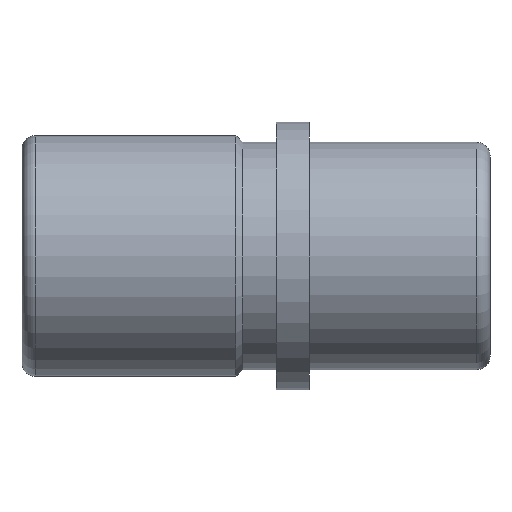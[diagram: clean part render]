
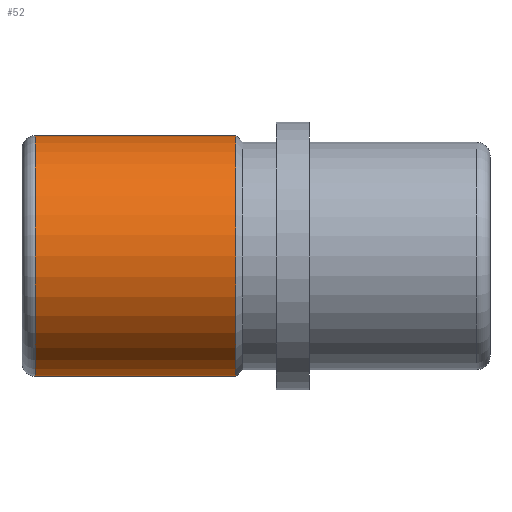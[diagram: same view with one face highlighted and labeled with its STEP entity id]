
A CAD part, front view. The second image highlights one B-rep face of the part: STEP entity #52.
In plain terms, the highlighted cylindrical face has radius 18 mm (diameter 36 mm), a full revolution.
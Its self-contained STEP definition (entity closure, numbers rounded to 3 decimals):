
#52 = ADVANCED_FACE( '', ( #111, #112 ), #113, .T. );
#111 = FACE_OUTER_BOUND( '', #174, .T. );
#112 = FACE_OUTER_BOUND( '', #175, .T. );
#113 = CYLINDRICAL_SURFACE( '', #176, 18. );
#174 = EDGE_LOOP( '', ( #245 ) );
#175 = EDGE_LOOP( '', ( #246 ) );
#176 = AXIS2_PLACEMENT_3D( '', #247, #248, #249 );
#245 = ORIENTED_EDGE( '', *, *, #302, .T. );
#246 = ORIENTED_EDGE( '', *, *, #306, .F. );
#247 = CARTESIAN_POINT( '', ( 27., 0., 0. ) );
#248 = DIRECTION( '', ( -1., 0., 0. ) );
#249 = DIRECTION( '', ( 0., 0., -1. ) );
#302 = EDGE_CURVE( '', #340, #340, #341, .T. );
#306 = EDGE_CURVE( '', #346, #346, #347, .T. );
#340 = VERTEX_POINT( '', #382 );
#341 = CIRCLE( '', #383, 18. );
#346 = VERTEX_POINT( '', #388 );
#347 = CIRCLE( '', #389, 18. );
#382 = CARTESIAN_POINT( '', ( -41., 0., -18. ) );
#383 = AXIS2_PLACEMENT_3D( '', #428, #429, #430 );
#388 = CARTESIAN_POINT( '', ( -11., 0., -18. ) );
#389 = AXIS2_PLACEMENT_3D( '', #434, #435, #436 );
#428 = CARTESIAN_POINT( '', ( -41., 0., 0. ) );
#429 = DIRECTION( '', ( 1., 0., 0. ) );
#430 = DIRECTION( '', ( 0., 0., -1. ) );
#434 = CARTESIAN_POINT( '', ( -11., 0., 0. ) );
#435 = DIRECTION( '', ( 1., 0., 0. ) );
#436 = DIRECTION( '', ( 0., 0., -1. ) );
